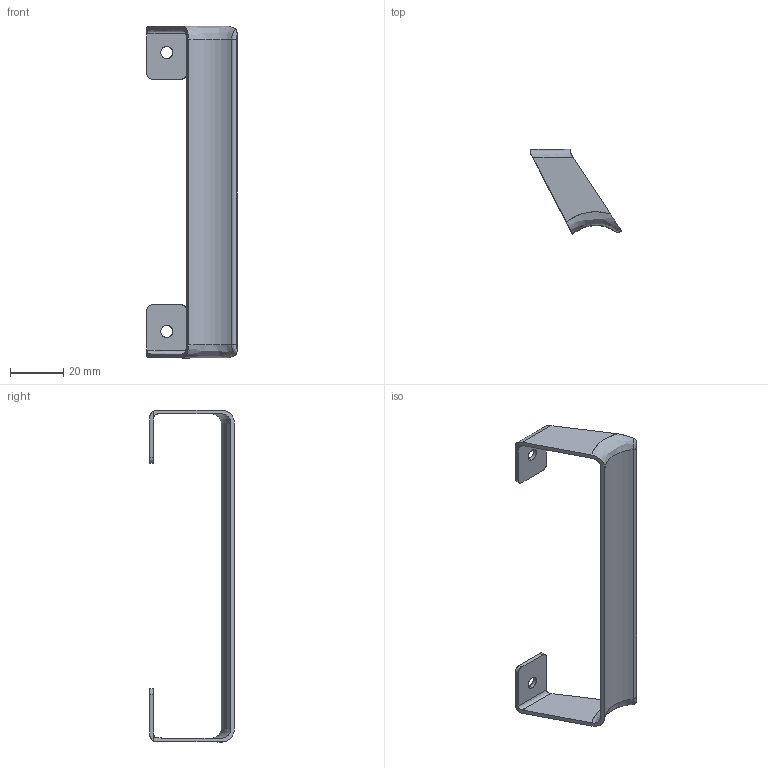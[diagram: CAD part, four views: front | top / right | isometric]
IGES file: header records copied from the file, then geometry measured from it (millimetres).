
Start section: SolidWorks IGES FILE using analytic representation for surfaces
Global section: file name: C:\Documents and Settings\lecoutey\Bureau\PX 395\PX  395.IGS; native system: SolidWorks 2004 by SolidWorks Corporation; preprocessor: Version 5.3; author: lecoutey; date: 050408.173251; units: millimetre
Bounding box: 34 x 31.92 x 125 mm (x, y, z)
Surface area: 8424.5 mm2 (no closed solid volume)
Topology: 0 solids, 0 shells, 41 faces, 616 edges, 616 vertices
Faces by surface type: bspline 26, revolution 15
